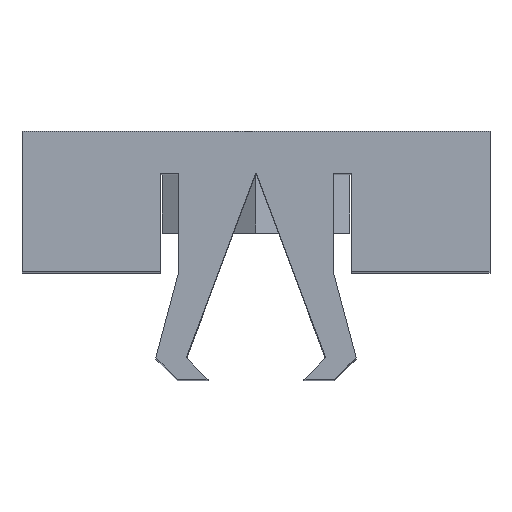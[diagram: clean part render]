
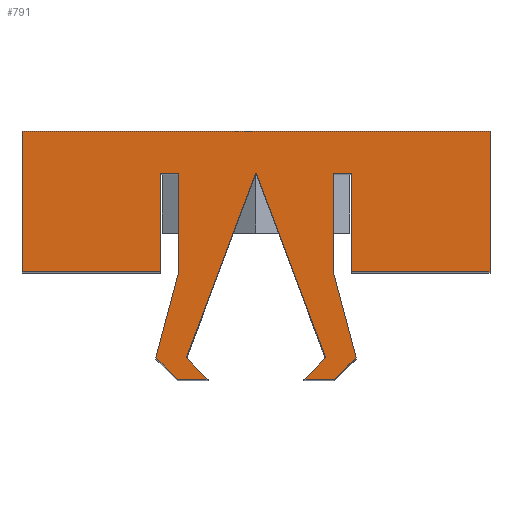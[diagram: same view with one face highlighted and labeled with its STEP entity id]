
A CAD part, top view. The second image highlights one B-rep face of the part: STEP entity #791.
In plain terms, the highlighted planar face has unit normal (0, 0, 1).
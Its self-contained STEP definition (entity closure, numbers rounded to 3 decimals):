
#64=PLANE('',#852);
#104=FACE_OUTER_BOUND('',#148,.T.);
#148=EDGE_LOOP('',(#728,#729,#730,#731,#732,#733,#734,#735,#736,#737,#738,
#739,#740,#741,#742,#743,#744,#745,#746,#747,#748,#749));
#183=LINE('',#1138,#285);
#186=LINE('',#1144,#288);
#197=LINE('',#1165,#299);
#207=LINE('',#1187,#309);
#214=LINE('',#1200,#316);
#216=LINE('',#1204,#318);
#218=LINE('',#1208,#320);
#222=LINE('',#1216,#324);
#229=LINE('',#1228,#331);
#230=LINE('',#1231,#332);
#232=LINE('',#1235,#334);
#234=LINE('',#1238,#336);
#235=LINE('',#1241,#337);
#237=LINE('',#1244,#339);
#239=LINE('',#1248,#341);
#242=LINE('',#1254,#344);
#245=LINE('',#1260,#347);
#246=LINE('',#1262,#348);
#247=LINE('',#1264,#349);
#248=LINE('',#1266,#350);
#249=LINE('',#1268,#351);
#250=LINE('',#1270,#352);
#285=VECTOR('',#932,10.);
#288=VECTOR('',#937,10.);
#299=VECTOR('',#954,10.);
#309=VECTOR('',#968,10.);
#316=VECTOR('',#979,10.);
#318=VECTOR('',#983,10.);
#320=VECTOR('',#985,10.);
#324=VECTOR('',#989,10.);
#331=VECTOR('',#1000,10.);
#332=VECTOR('',#1003,10.);
#334=VECTOR('',#1007,10.);
#336=VECTOR('',#1011,10.);
#337=VECTOR('',#1014,10.);
#339=VECTOR('',#1018,10.);
#341=VECTOR('',#1022,10.);
#344=VECTOR('',#1027,10.);
#347=VECTOR('',#1032,10.);
#348=VECTOR('',#1035,10.);
#349=VECTOR('',#1038,10.);
#350=VECTOR('',#1041,10.);
#351=VECTOR('',#1044,10.);
#352=VECTOR('',#1047,10.);
#386=VERTEX_POINT('',#1135);
#387=VERTEX_POINT('',#1137);
#388=VERTEX_POINT('',#1141);
#389=VERTEX_POINT('',#1143);
#396=VERTEX_POINT('',#1163);
#405=VERTEX_POINT('',#1184);
#406=VERTEX_POINT('',#1186);
#410=VERTEX_POINT('',#1198);
#411=VERTEX_POINT('',#1202);
#412=VERTEX_POINT('',#1205);
#413=VERTEX_POINT('',#1207);
#416=VERTEX_POINT('',#1213);
#417=VERTEX_POINT('',#1215);
#420=VERTEX_POINT('',#1226);
#421=VERTEX_POINT('',#1230);
#422=VERTEX_POINT('',#1234);
#423=VERTEX_POINT('',#1240);
#424=VERTEX_POINT('',#1246);
#425=VERTEX_POINT('',#1250);
#426=VERTEX_POINT('',#1252);
#427=VERTEX_POINT('',#1256);
#428=VERTEX_POINT('',#1258);
#468=EDGE_CURVE('',#387,#386,#183,.T.);
#471=EDGE_CURVE('',#389,#388,#186,.T.);
#482=EDGE_CURVE('',#386,#396,#197,.T.);
#492=EDGE_CURVE('',#406,#405,#207,.T.);
#499=EDGE_CURVE('',#388,#410,#214,.T.);
#501=EDGE_CURVE('',#405,#411,#216,.T.);
#503=EDGE_CURVE('',#413,#412,#218,.T.);
#507=EDGE_CURVE('',#417,#416,#222,.T.);
#514=EDGE_CURVE('',#411,#420,#229,.T.);
#515=EDGE_CURVE('',#421,#389,#230,.T.);
#517=EDGE_CURVE('',#422,#421,#232,.T.);
#519=EDGE_CURVE('',#416,#422,#234,.T.);
#520=EDGE_CURVE('',#423,#417,#235,.T.);
#522=EDGE_CURVE('',#410,#413,#237,.T.);
#524=EDGE_CURVE('',#412,#424,#239,.T.);
#527=EDGE_CURVE('',#425,#426,#242,.T.);
#530=EDGE_CURVE('',#427,#428,#245,.T.);
#531=EDGE_CURVE('',#396,#423,#246,.T.);
#532=EDGE_CURVE('',#420,#387,#247,.T.);
#533=EDGE_CURVE('',#406,#426,#248,.T.);
#534=EDGE_CURVE('',#425,#428,#249,.T.);
#535=EDGE_CURVE('',#424,#427,#250,.T.);
#728=ORIENTED_EDGE('',*,*,#507,.T.);
#729=ORIENTED_EDGE('',*,*,#519,.T.);
#730=ORIENTED_EDGE('',*,*,#517,.T.);
#731=ORIENTED_EDGE('',*,*,#515,.T.);
#732=ORIENTED_EDGE('',*,*,#471,.T.);
#733=ORIENTED_EDGE('',*,*,#499,.T.);
#734=ORIENTED_EDGE('',*,*,#522,.T.);
#735=ORIENTED_EDGE('',*,*,#503,.T.);
#736=ORIENTED_EDGE('',*,*,#524,.T.);
#737=ORIENTED_EDGE('',*,*,#535,.T.);
#738=ORIENTED_EDGE('',*,*,#530,.T.);
#739=ORIENTED_EDGE('',*,*,#534,.F.);
#740=ORIENTED_EDGE('',*,*,#527,.T.);
#741=ORIENTED_EDGE('',*,*,#533,.F.);
#742=ORIENTED_EDGE('',*,*,#492,.T.);
#743=ORIENTED_EDGE('',*,*,#501,.T.);
#744=ORIENTED_EDGE('',*,*,#514,.T.);
#745=ORIENTED_EDGE('',*,*,#532,.T.);
#746=ORIENTED_EDGE('',*,*,#468,.T.);
#747=ORIENTED_EDGE('',*,*,#482,.T.);
#748=ORIENTED_EDGE('',*,*,#531,.T.);
#749=ORIENTED_EDGE('',*,*,#520,.T.);
#791=ADVANCED_FACE('',(#104),#64,.T.);
#852=AXIS2_PLACEMENT_3D('',#1271,#1048,#1049);
#932=DIRECTION('',(0.707,-0.707,0.));
#937=DIRECTION('',(0.707,0.707,0.));
#954=DIRECTION('',(1.,0.,0.));
#968=DIRECTION('',(0.,1.,0.));
#979=DIRECTION('',(-0.259,0.966,0.));
#983=DIRECTION('',(1.,0.,0.));
#985=DIRECTION('',(1.,0.,0.));
#989=DIRECTION('',(1.,0.,0.));
#1000=DIRECTION('',(0.,-1.,0.));
#1003=DIRECTION('',(1.,0.,0.));
#1007=DIRECTION('',(-0.707,-0.707,0.));
#1011=DIRECTION('',(0.351,-0.936,0.));
#1014=DIRECTION('',(0.351,0.936,0.));
#1018=DIRECTION('',(0.,1.,0.));
#1022=DIRECTION('',(0.,-1.,0.));
#1027=DIRECTION('',(0.,-1.,0.));
#1032=DIRECTION('',(0.,1.,0.));
#1035=DIRECTION('',(-0.707,0.707,0.));
#1038=DIRECTION('',(-0.259,-0.966,0.));
#1041=DIRECTION('',(-1.,0.,0.));
#1044=DIRECTION('',(1.,0.,0.));
#1047=DIRECTION('',(1.,0.,0.));
#1048=DIRECTION('center_axis',(0.,0.,1.));
#1049=DIRECTION('ref_axis',(1.,0.,0.));
#1135=CARTESIAN_POINT('',(-1.675,-2.306,20.));
#1137=CARTESIAN_POINT('',(-2.141,-1.84,20.));
#1138=CARTESIAN_POINT('',(-1.675,-2.306,20.));
#1141=CARTESIAN_POINT('',(2.141,-1.84,20.));
#1143=CARTESIAN_POINT('',(1.675,-2.306,20.));
#1144=CARTESIAN_POINT('',(2.141,-1.84,20.));
#1163=CARTESIAN_POINT('',(-1.025,-2.306,20.));
#1165=CARTESIAN_POINT('',(-1.025,-2.306,20.));
#1184=CARTESIAN_POINT('',(-2.05,2.1,20.));
#1186=CARTESIAN_POINT('',(-2.05,0.,20.));
#1187=CARTESIAN_POINT('',(-2.05,2.1,20.));
#1198=CARTESIAN_POINT('',(1.648,0.,20.));
#1200=CARTESIAN_POINT('',(1.648,0.,20.));
#1202=CARTESIAN_POINT('',(-1.648,2.1,20.));
#1204=CARTESIAN_POINT('',(-1.648,2.1,20.));
#1205=CARTESIAN_POINT('',(2.05,2.1,20.));
#1207=CARTESIAN_POINT('',(1.648,2.1,20.));
#1208=CARTESIAN_POINT('',(1.648,2.1,20.));
#1213=CARTESIAN_POINT('',(0.01,2.1,20.));
#1215=CARTESIAN_POINT('',(-0.01,2.1,20.));
#1216=CARTESIAN_POINT('',(0.,2.1,20.));
#1226=CARTESIAN_POINT('',(-1.648,0.,20.));
#1228=CARTESIAN_POINT('',(-1.648,0.,20.));
#1230=CARTESIAN_POINT('',(1.025,-2.306,20.));
#1231=CARTESIAN_POINT('',(1.675,-2.306,20.));
#1234=CARTESIAN_POINT('',(1.488,-1.842,20.));
#1235=CARTESIAN_POINT('',(1.025,-2.306,20.));
#1238=CARTESIAN_POINT('',(0.01,2.1,20.));
#1240=CARTESIAN_POINT('',(-1.488,-1.842,20.));
#1241=CARTESIAN_POINT('',(-0.01,2.1,20.));
#1244=CARTESIAN_POINT('',(1.648,2.1,20.));
#1246=CARTESIAN_POINT('',(2.05,0.,20.));
#1248=CARTESIAN_POINT('',(2.05,0.,20.));
#1250=CARTESIAN_POINT('',(-5.,3.,20.));
#1252=CARTESIAN_POINT('',(-5.,0.,20.));
#1254=CARTESIAN_POINT('',(-5.,0.75,20.));
#1256=CARTESIAN_POINT('',(5.,0.,20.));
#1258=CARTESIAN_POINT('',(5.,3.,20.));
#1260=CARTESIAN_POINT('',(5.,2.25,20.));
#1262=CARTESIAN_POINT('',(-1.488,-1.842,20.));
#1264=CARTESIAN_POINT('',(-2.141,-1.84,20.));
#1266=CARTESIAN_POINT('',(-2.25,0.,20.));
#1268=CARTESIAN_POINT('',(2.25,3.,20.));
#1270=CARTESIAN_POINT('',(1.7,0.,20.));
#1271=CARTESIAN_POINT('Origin',(0.,0.347,
20.));
